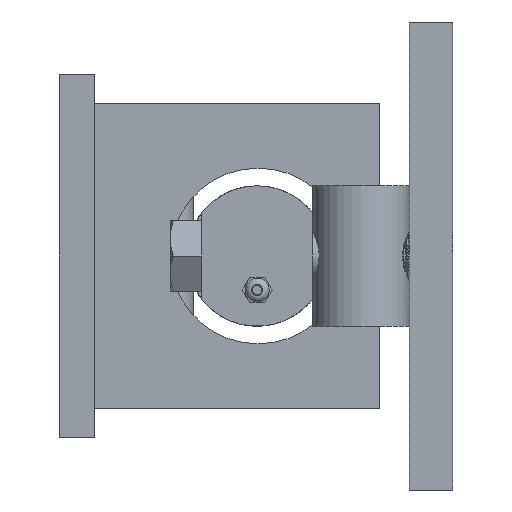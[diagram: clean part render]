
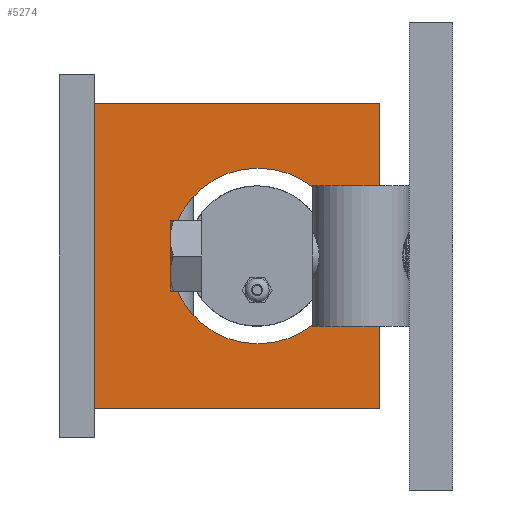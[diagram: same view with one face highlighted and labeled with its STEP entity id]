
A CAD part, left-side view. The second image highlights one B-rep face of the part: STEP entity #5274.
In plain terms, the highlighted planar face has unit normal (-1, 0, 0).
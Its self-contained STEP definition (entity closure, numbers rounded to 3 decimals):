
#198=FACE_BOUND('',#1072,.T.);
#296=PLANE('',#5771);
#442=CIRCLE('',#5770,47.65);
#732=FACE_OUTER_BOUND('',#1071,.T.);
#1071=EDGE_LOOP('',(#4786,#4787,#4788,#4789));
#1072=EDGE_LOOP('',(#4790));
#1615=LINE('',#21554,#1963);
#1630=LINE('',#21748,#1978);
#1631=LINE('',#21750,#1979);
#1632=LINE('',#21751,#1980);
#1963=VECTOR('',#6930,10.);
#1978=VECTOR('',#6981,10.);
#1979=VECTOR('',#6982,10.);
#1980=VECTOR('',#6983,10.);
#2475=VERTEX_POINT('',#21551);
#2476=VERTEX_POINT('',#21553);
#2487=VERTEX_POINT('',#21660);
#2489=VERTEX_POINT('',#21747);
#2490=VERTEX_POINT('',#21749);
#3234=EDGE_CURVE('',#2476,#2475,#1615,.T.);
#3255=EDGE_CURVE('',#2487,#2487,#442,.T.);
#3257=EDGE_CURVE('',#2475,#2489,#1630,.T.);
#3258=EDGE_CURVE('',#2489,#2490,#1631,.T.);
#3259=EDGE_CURVE('',#2490,#2476,#1632,.T.);
#4786=ORIENTED_EDGE('',*,*,#3257,.T.);
#4787=ORIENTED_EDGE('',*,*,#3258,.T.);
#4788=ORIENTED_EDGE('',*,*,#3259,.T.);
#4789=ORIENTED_EDGE('',*,*,#3234,.T.);
#4790=ORIENTED_EDGE('',*,*,#3255,.T.);
#5274=ADVANCED_FACE('',(#732,#198),#296,.F.);
#5770=AXIS2_PLACEMENT_3D('',#21662,#6977,#6978);
#5771=AXIS2_PLACEMENT_3D('',#21746,#6979,#6980);
#6930=DIRECTION('',(0.,0.,-1.));
#6977=DIRECTION('center_axis',(1.,0.,0.));
#6978=DIRECTION('ref_axis',(0.,0.,-1.));
#6979=DIRECTION('center_axis',(1.,0.,0.));
#6980=DIRECTION('ref_axis',(0.,0.,-1.));
#6981=DIRECTION('',(0.,-1.,0.));
#6982=DIRECTION('',(0.,0.,1.));
#6983=DIRECTION('',(0.,1.,0.));
#21551=CARTESIAN_POINT('',(-29.5,194.724,-82.55));
#21553=CARTESIAN_POINT('',(-29.5,194.724,82.55));
#21554=CARTESIAN_POINT('',(-29.5,194.724,82.55));
#21660=CARTESIAN_POINT('',(-29.5,105.824,47.65));
#21662=CARTESIAN_POINT('Origin',(-29.5,105.824,0.));
#21746=CARTESIAN_POINT('Origin',(-29.5,117.224,0.));
#21747=CARTESIAN_POINT('',(-29.5,39.724,-82.55));
#21748=CARTESIAN_POINT('',(-29.5,194.724,-82.55));
#21749=CARTESIAN_POINT('',(-29.5,39.724,82.55));
#21750=CARTESIAN_POINT('',(-29.5,39.724,-82.55));
#21751=CARTESIAN_POINT('',(-29.5,39.724,82.55));
